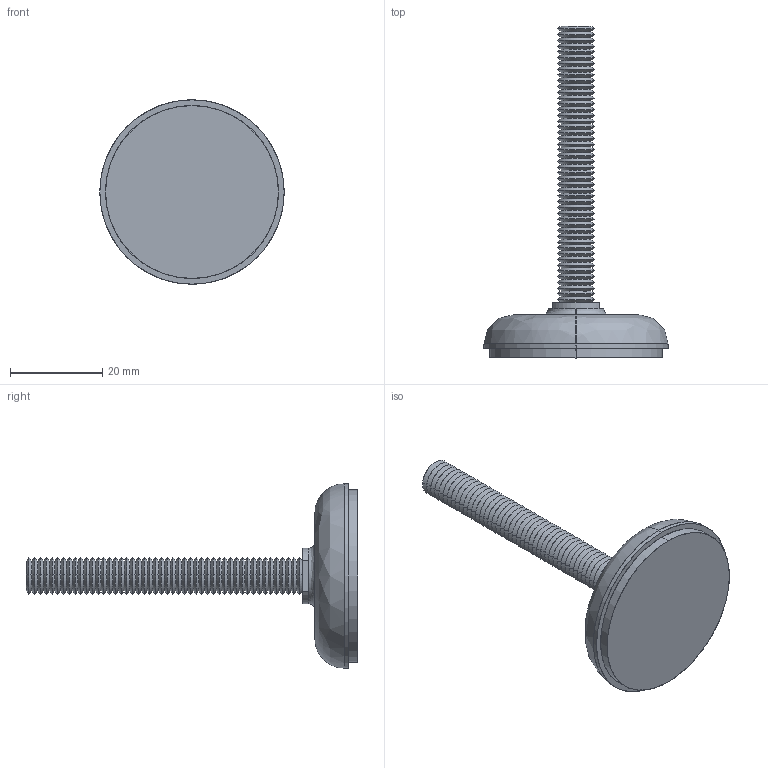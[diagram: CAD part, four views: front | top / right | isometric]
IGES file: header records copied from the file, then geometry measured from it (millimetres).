
Start section: SolidWorks IGES file using analytic representation for surfaces
Global section: file name: C:\Documents and Settings\IANO\Desktop\Temp File\Process pending\EXISTING\34780_v2\34780_v2_20170626_IGES\34780.W0084.igs; native system: SolidWorks 2009; preprocessor: SolidWorks 2009; author: IANO; date: 170626.122134; units: millimetre
Bounding box: 40 x 72 x 40 mm (x, y, z)
Surface area: 11831.1 mm2 (no closed solid volume)
Topology: 0 solids, 0 shells, 260 faces, 1922 edges, 1922 vertices
Faces by surface type: revolution 232, bspline 28
